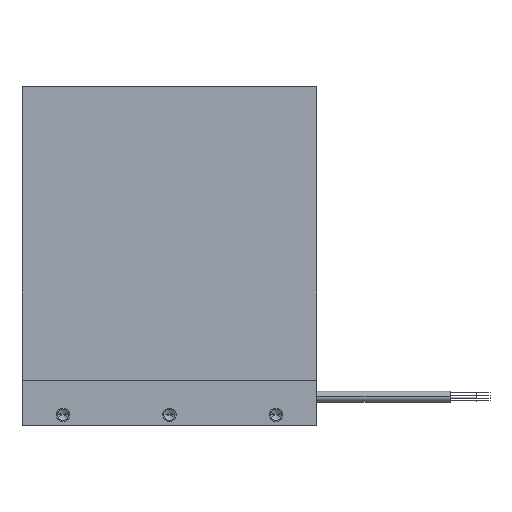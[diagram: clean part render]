
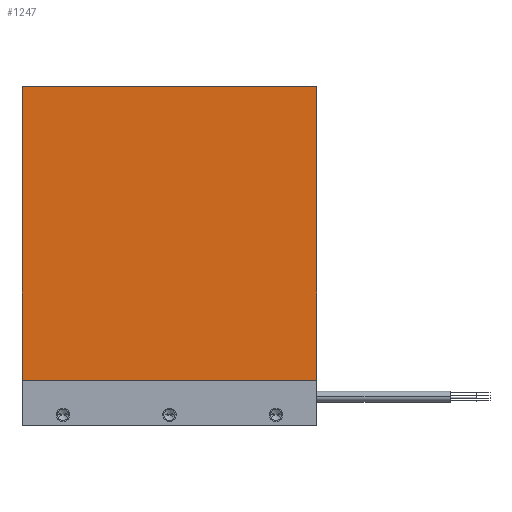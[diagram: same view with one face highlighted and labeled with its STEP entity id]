
A CAD part, left-side view. The second image highlights one B-rep face of the part: STEP entity #1247.
In plain terms, the highlighted planar face has unit normal (-1, 0, 0).
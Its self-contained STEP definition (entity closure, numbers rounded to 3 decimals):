
#21=DIRECTION('',(0.,0.,1.));
#22=VECTOR('',#21,110.3);
#23=CARTESIAN_POINT('',(-2.2,-55.4,0.));
#24=LINE('',#23,#22);
#71=DIRECTION('',(0.,1.,0.));
#72=VECTOR('',#71,110.8);
#73=CARTESIAN_POINT('',(-2.2,-55.4,110.3));
#74=LINE('',#73,#72);
#75=DIRECTION('',(0.,1.,0.));
#76=VECTOR('',#75,110.8);
#77=CARTESIAN_POINT('',(-2.2,-55.4,0.));
#78=LINE('',#77,#76);
#207=DIRECTION('',(0.,0.,1.));
#208=VECTOR('',#207,110.3);
#209=CARTESIAN_POINT('',(-2.2,55.4,0.));
#210=LINE('',#209,#208);
#903=CARTESIAN_POINT('',(-2.2,-55.4,0.));
#904=VERTEX_POINT('',#903);
#905=CARTESIAN_POINT('',(-2.2,-55.4,110.3));
#906=VERTEX_POINT('',#905);
#919=CARTESIAN_POINT('',(-2.2,55.4,0.));
#920=VERTEX_POINT('',#919);
#921=CARTESIAN_POINT('',(-2.2,55.4,110.3));
#922=VERTEX_POINT('',#921);
#1234=CARTESIAN_POINT('',(-2.2,-55.4,0.));
#1235=DIRECTION('',(-1.,0.,0.));
#1236=DIRECTION('',(0.,0.,1.));
#1237=AXIS2_PLACEMENT_3D('',#1234,#1235,#1236);
#1238=PLANE('',#1237);
#1239=ORIENTED_EDGE('',*,*,#1164,.F.);
#1241=ORIENTED_EDGE('',*,*,#1240,.T.);
#1243=ORIENTED_EDGE('',*,*,#1242,.T.);
#1244=ORIENTED_EDGE('',*,*,#1226,.F.);
#1245=EDGE_LOOP('',(#1239,#1241,#1243,#1244));
#1246=FACE_OUTER_BOUND('',#1245,.F.);
#1247=ADVANCED_FACE('',(#1246),#1238,.T.);
#1164=EDGE_CURVE('',#904,#906,#24,.T.);
#1226=EDGE_CURVE('',#906,#922,#74,.T.);
#1240=EDGE_CURVE('',#904,#920,#78,.T.);
#1242=EDGE_CURVE('',#920,#922,#210,.T.);
